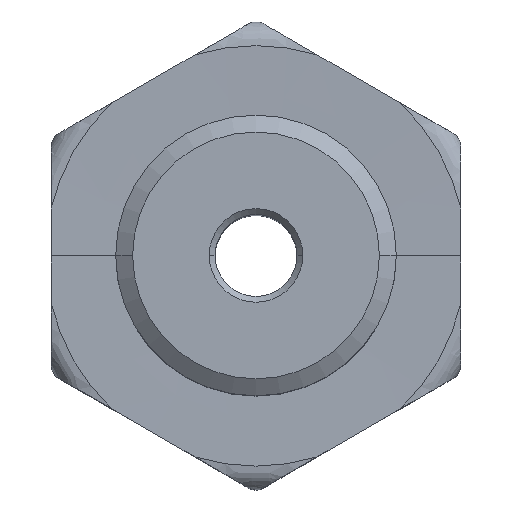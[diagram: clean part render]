
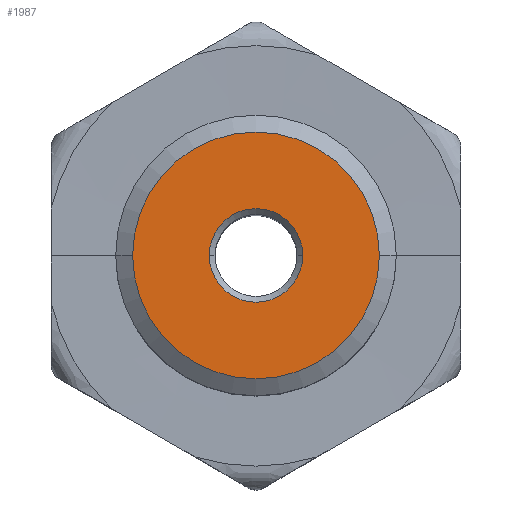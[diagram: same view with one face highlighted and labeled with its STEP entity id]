
A CAD part, top view. The second image highlights one B-rep face of the part: STEP entity #1987.
In plain terms, the highlighted planar face has unit normal (0, 0, 1).
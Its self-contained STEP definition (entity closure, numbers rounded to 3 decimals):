
#108 = AXIS2_PLACEMENT_3D ( 'NONE', #927, #1441, #1178 ) ;
#132 = ORIENTED_EDGE ( 'NONE', *, *, #2167, .F. ) ;
#203 = CARTESIAN_POINT ( 'NONE',  ( 0., 0., 0. ) ) ;
#266 = VERTEX_POINT ( 'NONE', #1187 ) ;
#333 = EDGE_LOOP ( 'NONE', ( #3240, #132 ) ) ;
#421 = ORIENTED_EDGE ( 'NONE', *, *, #1925, .T. ) ;
#455 = DIRECTION ( 'NONE',  ( -1., 0., 0. ) ) ;
#466 = AXIS2_PLACEMENT_3D ( 'NONE', #2787, #1255, #3051 ) ;
#512 = EDGE_CURVE ( 'NONE', #2709, #1302, #1894, .T. ) ;
#637 = PLANE ( 'NONE',  #1744 ) ;
#927 = CARTESIAN_POINT ( 'NONE',  ( 0., 0., 0. ) ) ;
#1118 = CARTESIAN_POINT ( 'NONE',  ( 0., 0., 0. ) ) ;
#1178 = DIRECTION ( 'NONE',  ( -1., 0., 0. ) ) ;
#1187 = CARTESIAN_POINT ( 'NONE',  ( 1.6, 0., 0. ) ) ;
#1217 = CARTESIAN_POINT ( 'NONE',  ( 4.219, 0., 0. ) ) ;
#1255 = DIRECTION ( 'NONE',  ( 0., 0., -1. ) ) ;
#1302 = VERTEX_POINT ( 'NONE', #1217 ) ;
#1376 = DIRECTION ( 'NONE',  ( -1., 0., 0. ) ) ;
#1381 = FACE_BOUND ( 'NONE', #2048, .T. ) ;
#1397 = CARTESIAN_POINT ( 'NONE',  ( -4.219, 0., 0. ) ) ;
#1416 = DIRECTION ( 'NONE',  ( -1., 0., 0. ) ) ;
#1421 = VERTEX_POINT ( 'NONE', #2983 ) ;
#1441 = DIRECTION ( 'NONE',  ( 0., 0., -1. ) ) ;
#1479 = FACE_OUTER_BOUND ( 'NONE', #333, .T. ) ;
#1515 = CIRCLE ( 'NONE', #466, 4.219 ) ;
#1625 = CIRCLE ( 'NONE', #2649, 1.6 ) ;
#1744 = AXIS2_PLACEMENT_3D ( 'NONE', #3169, #2942, #1416 ) ;
#1809 = EDGE_CURVE ( 'NONE', #1421, #266, #1625, .T. ) ;
#1894 = CIRCLE ( 'NONE', #108, 4.219 ) ;
#1925 = EDGE_CURVE ( 'NONE', #266, #1421, #2754, .T. ) ;
#1987 = ADVANCED_FACE ( 'NONE', ( #1381, #1479 ), #637, .F. ) ;
#2004 = DIRECTION ( 'NONE',  ( 0., 0., -1. ) ) ;
#2048 = EDGE_LOOP ( 'NONE', ( #421, #2389 ) ) ;
#2167 = EDGE_CURVE ( 'NONE', #1302, #2709, #1515, .T. ) ;
#2389 = ORIENTED_EDGE ( 'NONE', *, *, #1809, .T. ) ;
#2649 = AXIS2_PLACEMENT_3D ( 'NONE', #203, #2004, #455 ) ;
#2709 = VERTEX_POINT ( 'NONE', #1397 ) ;
#2754 = CIRCLE ( 'NONE', #3010, 1.6 ) ;
#2787 = CARTESIAN_POINT ( 'NONE',  ( 0., 0., 0. ) ) ;
#2906 = DIRECTION ( 'NONE',  ( 0., 0., -1. ) ) ;
#2942 = DIRECTION ( 'NONE',  ( 0., 0., -1. ) ) ;
#2983 = CARTESIAN_POINT ( 'NONE',  ( -1.6, 0., 0. ) ) ;
#3010 = AXIS2_PLACEMENT_3D ( 'NONE', #1118, #2906, #1376 ) ;
#3051 = DIRECTION ( 'NONE',  ( -1., 0., 0. ) ) ;
#3169 = CARTESIAN_POINT ( 'NONE',  ( 0., 0., 0. ) ) ;
#3240 = ORIENTED_EDGE ( 'NONE', *, *, #512, .F. ) ;
